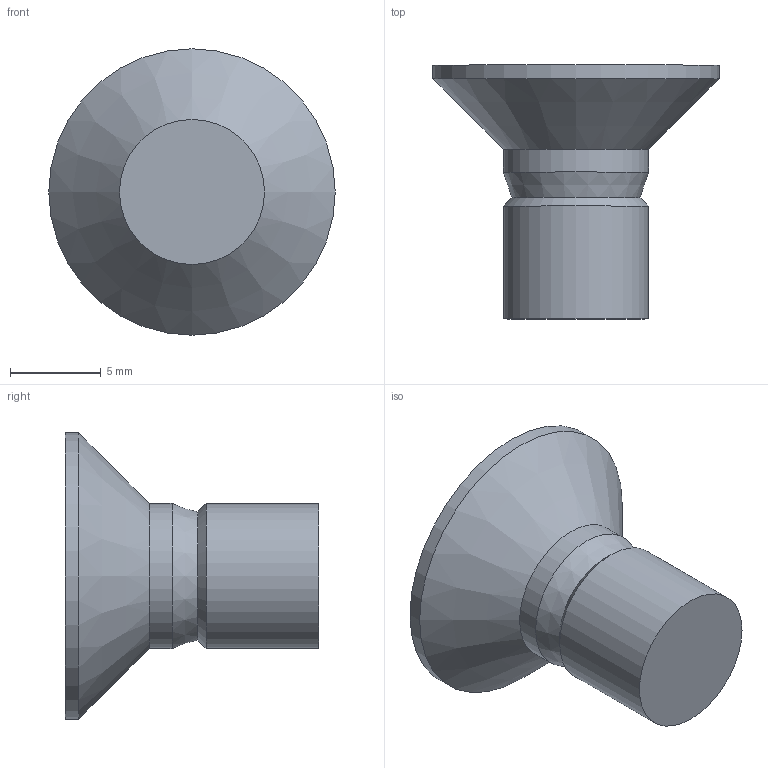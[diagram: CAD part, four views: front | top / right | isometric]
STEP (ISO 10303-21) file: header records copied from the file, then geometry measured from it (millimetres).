
FILE_DESCRIPTION(/* description */ (''),/* implementation_level */ '2;1');
FILE_NAME(/* name */ 'C:\Users\unitec\Documents\Inventor\HP\ボルト\JIS B 1111 十字穴付き皿小ねじ\IPT\CHWCSS-M8\CHWCSS-M8-14.stp',/* time_stamp */ '2016-12-24T16:30:30+09:00',/* author */ ('unitec'),/* organization */ (''),/* preprocessor_version */ 'ST-DEVELOPER v15.2',/* originating_system */ 'Autodesk Inventor 2014',/* authorisation */ '');
FILE_SCHEMA (('AUTOMOTIVE_DESIGN { 1 0 10303 214 3 1 1 }'));
Length unit declared in the file: millimetre
Products named in the file (1): CHWCSS-M8-14
Bounding box: 15.8 x 14 x 15.8 mm (x, y, z)
Volume: 996.4 mm3; surface area: 780.5 mm2
Topology: 1 solids, 1 shells, 33 faces, 77 edges, 43 vertices
Faces by surface type: plane 23, bspline 4, cylinder 3, cone 3
Full cylindrical faces by diameter (mm): 8 x2, 15.8 x1
Entity records: 1057 total; most frequent: CARTESIAN_POINT 400, ORIENTED_EDGE 134, DIRECTION 106, EDGE_CURVE 67, VERTEX_POINT 43, EDGE_LOOP 40, AXIS2_PLACEMENT_3D 37, ADVANCED_FACE 33
